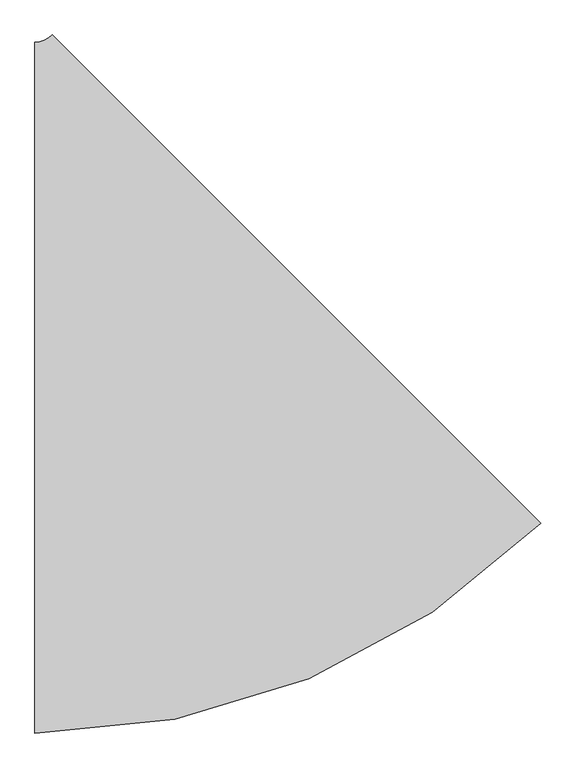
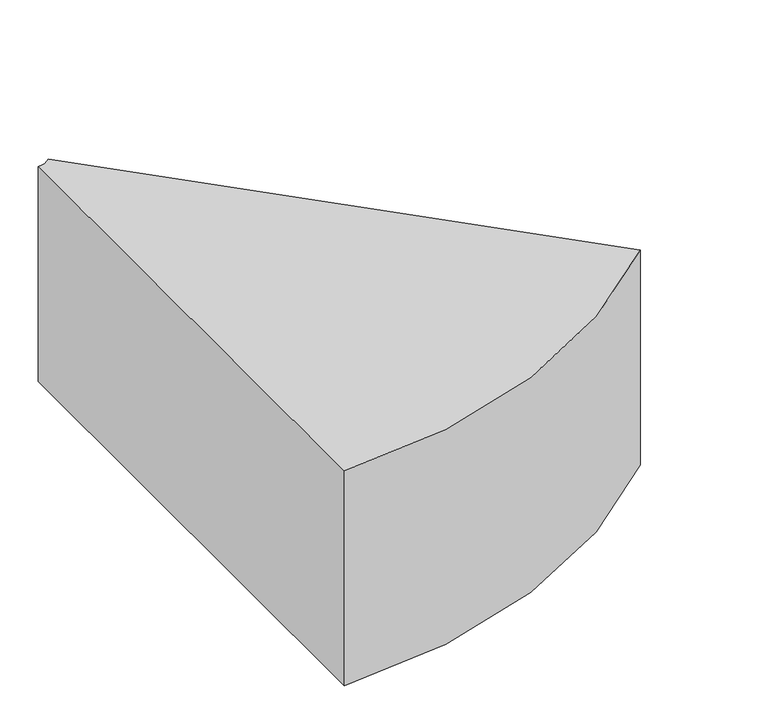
"""IFC4 building model written with IfcOpenShell, lengths in millimetres: duct fitting geometry, ADSK_ОтводВоздуховодов_Прямоугольный1 : Стандарт 2."""

from ifc_helpers import new_model, si_unit, point, frame, frame_2d, origin, place, context, project, spatial, polyline, circle_curve, trimmed, segment, composite_curve, outline, extrude, source, transform, mapped, element, save


def duct_fitting_c074683a(model_context):
    return source(origin(), model_context, "Body", "SweptSolid", [
        extrude(outline(composite_curve([segment(trimmed(circle_curve(frame_2d((-310.6601718, 750.0)), 1450.0), [point((714.6446609, -275.3048327))], [point((-310.6601718, -700.0))], False, "CARTESIAN"), True, "CONTINUOUS"), segment(polyline([(-310.6601718, -700.0), (-310.6601718, 700.0)]), True, "CONTINUOUS"), segment(trimmed(circle_curve(frame_2d((-310.6601718, 750.0)), 50.0), [point((-310.6601718, 700.0))], [point((-275.3048327, 714.6446609))], True, "CARTESIAN"), True, "CONTINUOUS"), segment(polyline([(-275.3048327, 714.6446609), (714.6446609, -275.3048327)]), True, "CONTINUOUS")], self_intersect=False)), frame((0.0, 0.0, -300.0), z_axis=(0.0, 0.0, 1.0), x_axis=(1.0, 0.0, 0.0)), (0.0, 0.0, 1.0), 600.0),
    ])


if __name__ == "__main__":
    model = new_model("IFC4")
    model_context = context("Model", 3, world=origin())
    ifc_project = project(units=[si_unit("LENGTHUNIT", "METRE", prefix="MILLI")], contexts=[model_context])
    site = spatial("IfcSite", under=ifc_project)
    building = spatial("IfcBuilding", under=site)
    placement = place(None, origin())
    duct_fitting_shape = duct_fitting_c074683a(model_context)
    element("IfcDuctFitting", 1, ObjectType="ADSK_ОтводВоздуховодов_Прямоугольный1 : Стандарт 2", at=placement, inside=building, context=model_context, shape_type="MappedRepresentation", body=[
        mapped(duct_fitting_shape, transform((0.0, 0.0, 0.0), x_axis=(1.0, 0.0, 0.0), y_axis=(0.0, 1.0, 0.0), z_axis=(0.0, 0.0, 1.0))),
    ])
    save(model, "model.ifc")
